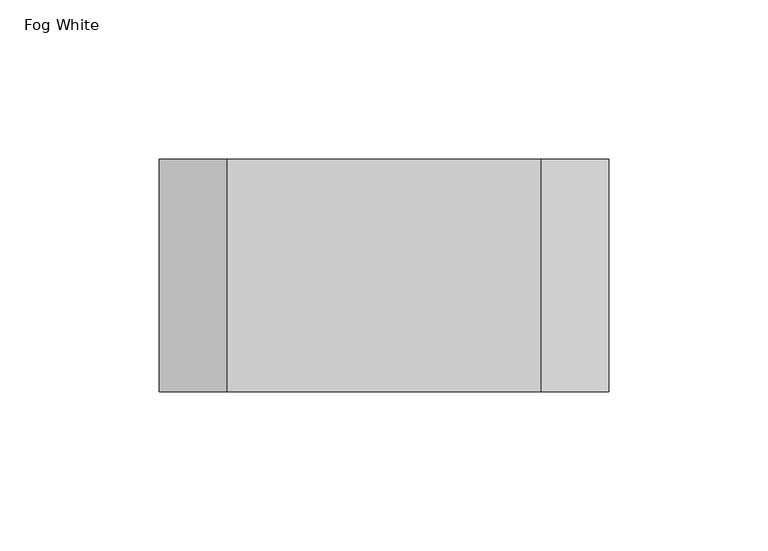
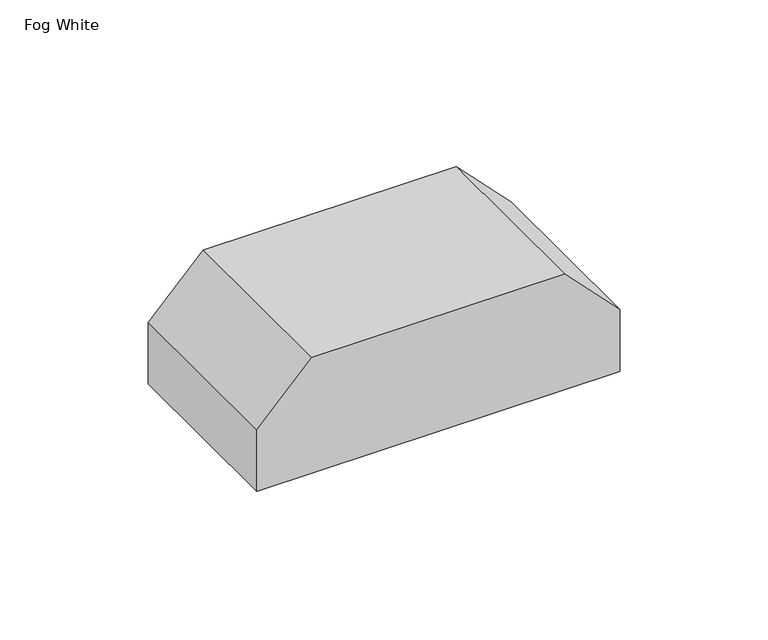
"""IFC4 building model written with IfcOpenShell, lengths in millimetres: proxy geometry, Bridge-2400_Series-Wiremold : Fog White."""

from ifc_helpers import new_model, si_unit, frame, origin, place, context, project, spatial, polyline, outline, extrude, source, transform, mapped, element, save


def fog_white_fadfb5dc(model_context):
    return source(origin(), model_context, "Body", "SweptSolid", [
        extrude(outline(polyline([(47.625, 49.2125), (47.625, -49.2125), (25.4, -70.64375), (0.0, -70.64375), (0.0, 70.64375), (25.4, 70.64375), (47.625, 49.2125)])), frame((0.0, -36.5125, 0.0), z_axis=(0.0, 1.0, 0.0), x_axis=(0.0, 0.0, 1.0)), (0.0, 0.0, 1.0), 73.025),
    ])


if __name__ == "__main__":
    model = new_model("IFC4")
    model_context = context("Model", 3, world=origin())
    ifc_project = project(units=[si_unit("LENGTHUNIT", "METRE", prefix="MILLI")], contexts=[model_context])
    site = spatial("IfcSite", under=ifc_project)
    building = spatial("IfcBuilding", under=site)
    placement = place(None, origin())
    fog_white_shape = fog_white_fadfb5dc(model_context)
    element("IfcBuildingElementProxy", 1, Name="Bridge-2400_Series-Wiremold : Fog White", ObjectType="Bridge-2400_Series-Wiremold : Fog White", at=placement, inside=building, context=model_context, shape_type="MappedRepresentation", body=[
        mapped(fog_white_shape, transform((0.0, 0.0, 0.0), x_axis=(1.0, 0.0, 0.0), y_axis=(0.0, 1.0, 0.0), z_axis=(0.0, 0.0, 1.0))),
    ])
    save(model, "model.ifc")
